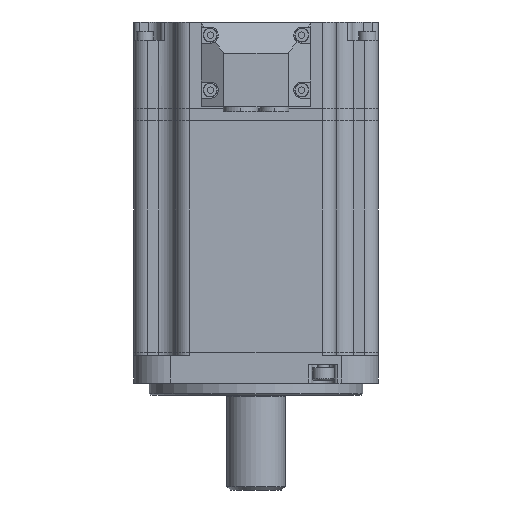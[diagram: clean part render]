
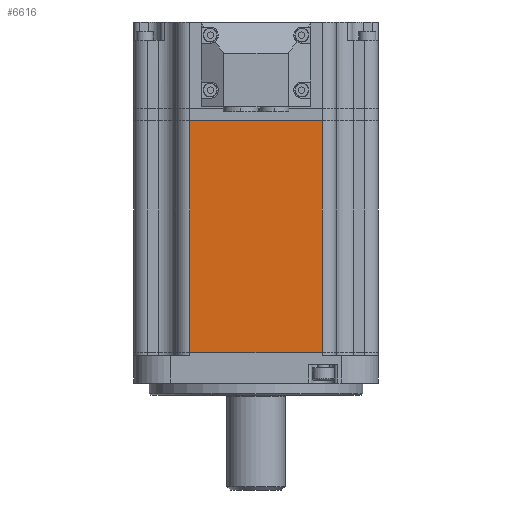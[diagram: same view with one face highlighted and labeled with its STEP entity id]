
A CAD part, front view. The second image highlights one B-rep face of the part: STEP entity #6616.
In plain terms, the highlighted planar face has unit normal (0, -1, 0).
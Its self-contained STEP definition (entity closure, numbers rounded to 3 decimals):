
#84 = EDGE_LOOP ( 'NONE', ( #23135, #29657, #19797, #31968 ) ) ;
#726 = CARTESIAN_POINT ( 'NONE',  ( -22.178, -42.874, 85.9 ) ) ;
#3586 = CARTESIAN_POINT ( 'NONE',  ( 25.822, -42.874, 85.9 ) ) ;
#3682 = LINE ( 'NONE', #11190, #30310 ) ;
#3696 = DIRECTION ( 'NONE',  ( 0., 0., 1. ) ) ;
#5737 = CARTESIAN_POINT ( 'NONE',  ( -22.178, -42.874, 10. ) ) ;
#6616 = ADVANCED_FACE ( 'NONE', ( #14270 ), #9051, .F. ) ;
#7466 = EDGE_CURVE ( 'NONE', #20068, #30923, #3682, .T. ) ;
#7522 = VECTOR ( 'NONE', #8336, 1000. ) ;
#8336 = DIRECTION ( 'NONE',  ( 1., 0., 0. ) ) ;
#9051 = PLANE ( 'NONE',  #9074 ) ;
#9074 = AXIS2_PLACEMENT_3D ( 'NONE', #726, #28901, #14259 ) ;
#11190 = CARTESIAN_POINT ( 'NONE',  ( 25.822, -42.874, 85.9 ) ) ;
#11265 = CARTESIAN_POINT ( 'NONE',  ( -17.678, -42.874, 85.9 ) ) ;
#11339 = EDGE_CURVE ( 'NONE', #23250, #23451, #18858, .T. ) ;
#12694 = LINE ( 'NONE', #22780, #24760 ) ;
#14259 = DIRECTION ( 'NONE',  ( -1., 0., 0. ) ) ;
#14270 = FACE_OUTER_BOUND ( 'NONE', #84, .T. ) ;
#14437 = EDGE_CURVE ( 'NONE', #23250, #30923, #12694, .T. ) ;
#18858 = LINE ( 'NONE', #30308, #31721 ) ;
#19797 = ORIENTED_EDGE ( 'NONE', *, *, #29227, .T. ) ;
#20068 = VERTEX_POINT ( 'NONE', #29515 ) ;
#22780 = CARTESIAN_POINT ( 'NONE',  ( -22.178, -42.874, 85.9 ) ) ;
#23135 = ORIENTED_EDGE ( 'NONE', *, *, #14437, .F. ) ;
#23250 = VERTEX_POINT ( 'NONE', #11265 ) ;
#23451 = VERTEX_POINT ( 'NONE', #30361 ) ;
#24760 = VECTOR ( 'NONE', #25377, 1000. ) ;
#25377 = DIRECTION ( 'NONE',  ( 1., 0., 0. ) ) ;
#28901 = DIRECTION ( 'NONE',  ( 0., 1., 0. ) ) ;
#28912 = LINE ( 'NONE', #5737, #7522 ) ;
#29227 = EDGE_CURVE ( 'NONE', #23451, #20068, #28912, .T. ) ;
#29515 = CARTESIAN_POINT ( 'NONE',  ( 25.822, -42.874, 10. ) ) ;
#29657 = ORIENTED_EDGE ( 'NONE', *, *, #11339, .T. ) ;
#30308 = CARTESIAN_POINT ( 'NONE',  ( -17.678, -42.874, 85.9 ) ) ;
#30310 = VECTOR ( 'NONE', #3696, 1000. ) ;
#30361 = CARTESIAN_POINT ( 'NONE',  ( -17.678, -42.874, 10. ) ) ;
#30923 = VERTEX_POINT ( 'NONE', #3586 ) ;
#31721 = VECTOR ( 'NONE', #32910, 1000. ) ;
#31968 = ORIENTED_EDGE ( 'NONE', *, *, #7466, .T. ) ;
#32910 = DIRECTION ( 'NONE',  ( 0., 0., -1. ) ) ;
